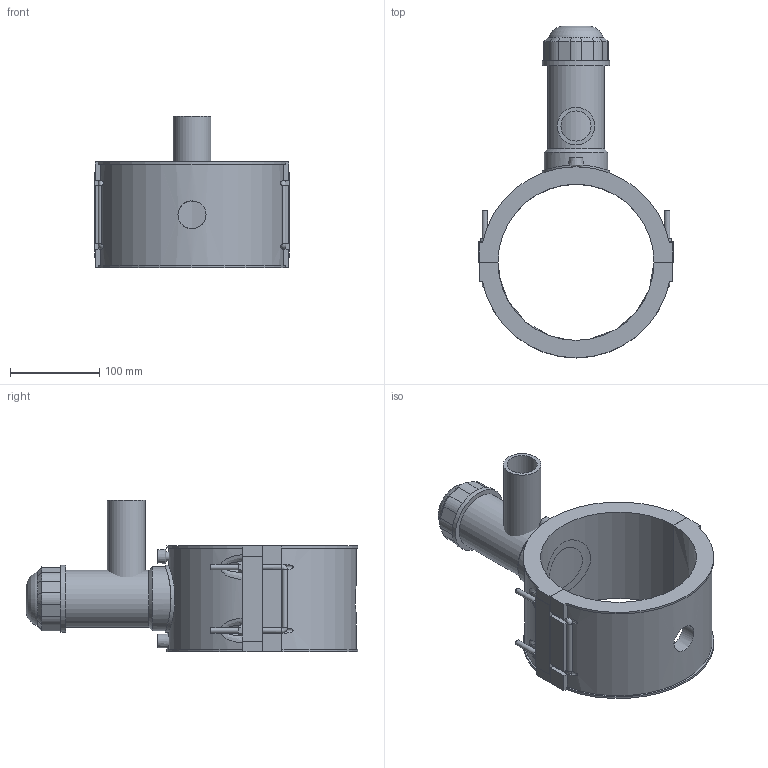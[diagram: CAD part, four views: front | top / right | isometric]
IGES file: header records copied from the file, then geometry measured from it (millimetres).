
Global section: file name: 5963DBP3060013.ipt; native system: Autodesk Inventor 2019; preprocessor: unknown; author: KIM; date: 20210830.101653; units: inch
Bounding box: 217.9 x 371.08 x 169.04 mm (x, y, z)
Volume: 1671780 mm3; surface area: 286043.4 mm2
Topology: 3 solids, 4 shells, 200 faces, 501 edges, 325 vertices
Faces by surface type: plane 125, cylinder 35, revolution 21, cone 15, bspline 4
Full cylindrical faces by diameter (mm): 4 x2, 6 x8, 42.1 x1, 63.78 x1, 71.283 x1, 75.035 x2
